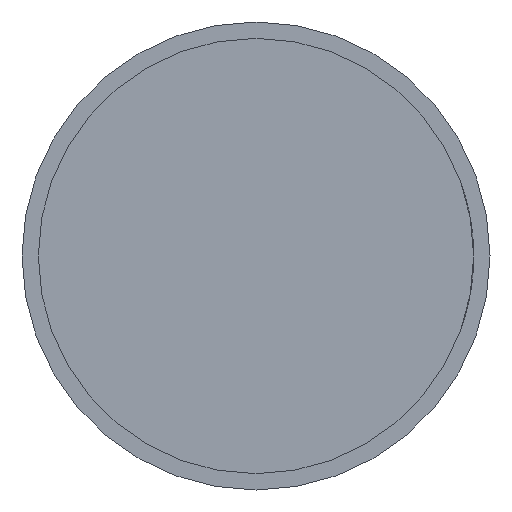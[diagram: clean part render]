
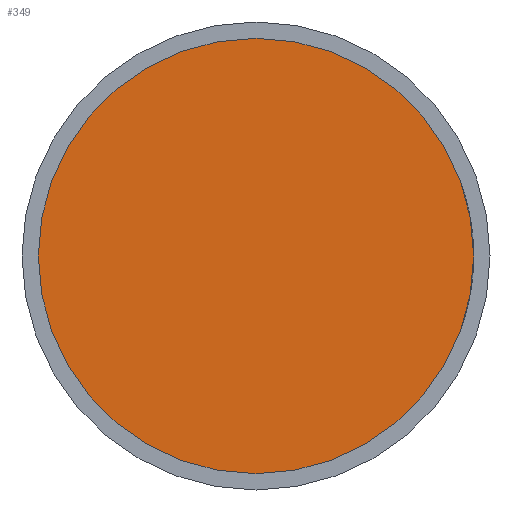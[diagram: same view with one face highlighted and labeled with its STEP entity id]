
A CAD part, left-side view. The second image highlights one B-rep face of the part: STEP entity #349.
In plain terms, the highlighted planar face has unit normal (-1, 0, 0).
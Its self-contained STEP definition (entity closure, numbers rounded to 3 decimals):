
#37=PLANE('',#386);
#55=FACE_OUTER_BOUND('',#80,.T.);
#80=EDGE_LOOP('',(#288));
#114=CIRCLE('',#387,20.);
#188=VERTEX_POINT('',#651);
#230=EDGE_CURVE('',#188,#188,#114,.T.);
#288=ORIENTED_EDGE('',*,*,#230,.F.);
#349=ADVANCED_FACE('',(#55),#37,.T.);
#386=AXIS2_PLACEMENT_3D('',#650,#461,#462);
#387=AXIS2_PLACEMENT_3D('',#652,#463,#464);
#461=DIRECTION('center_axis',(-1.,0.,0.));
#462=DIRECTION('ref_axis',(0.,0.,1.));
#463=DIRECTION('center_axis',(1.,0.,0.));
#464=DIRECTION('ref_axis',(0.,1.,0.));
#650=CARTESIAN_POINT('Origin',(-47.443,10.,0.));
#651=CARTESIAN_POINT('',(-47.443,20.,0.));
#652=CARTESIAN_POINT('Origin',(-47.443,0.,0.));
